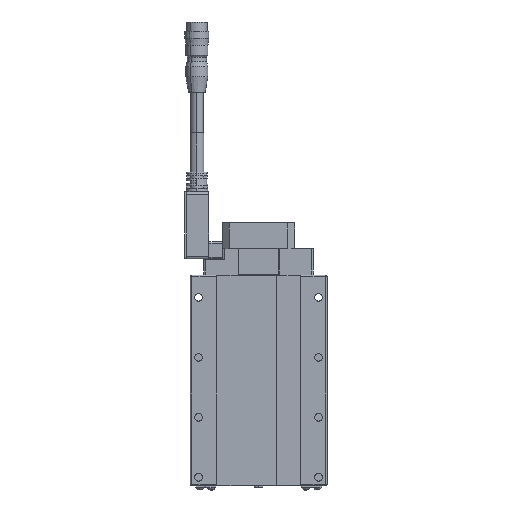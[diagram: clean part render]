
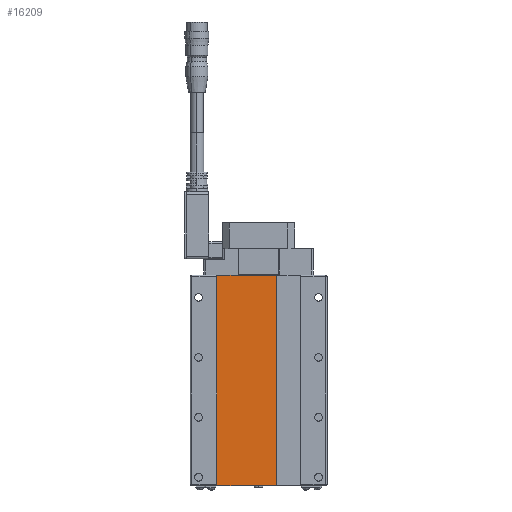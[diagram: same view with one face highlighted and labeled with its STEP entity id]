
A CAD part, front view. The second image highlights one B-rep face of the part: STEP entity #16209.
In plain terms, the highlighted planar face has unit normal (0, -1, 0).
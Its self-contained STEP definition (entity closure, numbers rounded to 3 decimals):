
#1436 = DIRECTION ( 'NONE',  ( 0., 0., 1. ) ) ;
#1775 = FACE_OUTER_BOUND ( 'NONE', #49706, .T. ) ;
#2276 = ORIENTED_EDGE ( 'NONE', *, *, #58539, .T. ) ;
#3263 = LINE ( 'NONE', #8575, #4538 ) ;
#3630 = DIRECTION ( 'NONE',  ( -1., 0., 0. ) ) ;
#4538 = VECTOR ( 'NONE', #27027, 1000. ) ;
#6110 = LINE ( 'NONE', #10804, #7003 ) ;
#6900 = VECTOR ( 'NONE', #20263, 1000. ) ;
#7003 = VECTOR ( 'NONE', #1436, 1000. ) ;
#8575 = CARTESIAN_POINT ( 'NONE',  ( -24.3, 0.3, 122.8 ) ) ;
#8665 = CARTESIAN_POINT ( 'NONE',  ( 10.3, 0.3, 122.8 ) ) ;
#9549 = EDGE_CURVE ( 'NONE', #42359, #17676, #24313, .T. ) ;
#9805 = VERTEX_POINT ( 'NONE', #8665 ) ;
#10804 = CARTESIAN_POINT ( 'NONE',  ( 10.3, 0.3, 0.2 ) ) ;
#12267 = ORIENTED_EDGE ( 'NONE', *, *, #57612, .T. ) ;
#14965 = CARTESIAN_POINT ( 'NONE',  ( -24.3, 0.3, 0.2 ) ) ;
#15465 = AXIS2_PLACEMENT_3D ( 'NONE', #35217, #30516, #3630 ) ;
#16209 = ADVANCED_FACE ( 'NONE', ( #1775 ), #39871, .F. ) ;
#17676 = VERTEX_POINT ( 'NONE', #54748 ) ;
#18595 = LINE ( 'NONE', #37033, #19921 ) ;
#18740 = ORIENTED_EDGE ( 'NONE', *, *, #9549, .T. ) ;
#19921 = VECTOR ( 'NONE', #28553, 1000. ) ;
#20263 = DIRECTION ( 'NONE',  ( 1., 0., 0. ) ) ;
#24313 = LINE ( 'NONE', #14965, #6900 ) ;
#24683 = CARTESIAN_POINT ( 'NONE',  ( -24.3, 0.3, 122.8 ) ) ;
#27027 = DIRECTION ( 'NONE',  ( -1., 0., 0. ) ) ;
#27795 = CARTESIAN_POINT ( 'NONE',  ( -24.3, 0.3, 0.2 ) ) ;
#28553 = DIRECTION ( 'NONE',  ( 0., 0., -1. ) ) ;
#29356 = EDGE_CURVE ( 'NONE', #9805, #52518, #3263, .T. ) ;
#30516 = DIRECTION ( 'NONE',  ( 0., 1., 0. ) ) ;
#35217 = CARTESIAN_POINT ( 'NONE',  ( -24.3, 0.3, 122.8 ) ) ;
#37033 = CARTESIAN_POINT ( 'NONE',  ( -24.3, 0.3, 0.2 ) ) ;
#39871 = PLANE ( 'NONE',  #15465 ) ;
#42359 = VERTEX_POINT ( 'NONE', #27795 ) ;
#49706 = EDGE_LOOP ( 'NONE', ( #12267, #18740, #2276, #59802 ) ) ;
#52518 = VERTEX_POINT ( 'NONE', #24683 ) ;
#54748 = CARTESIAN_POINT ( 'NONE',  ( 10.3, 0.3, 0.2 ) ) ;
#57612 = EDGE_CURVE ( 'NONE', #52518, #42359, #18595, .T. ) ;
#58539 = EDGE_CURVE ( 'NONE', #17676, #9805, #6110, .T. ) ;
#59802 = ORIENTED_EDGE ( 'NONE', *, *, #29356, .T. ) ;
